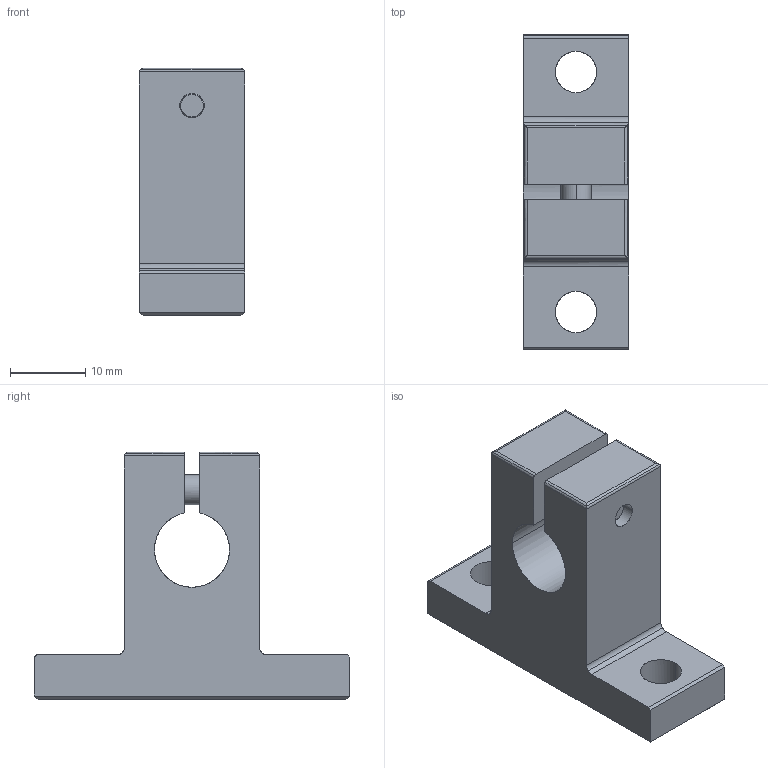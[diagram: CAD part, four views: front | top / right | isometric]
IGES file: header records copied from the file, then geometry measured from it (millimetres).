
Global section: file name: No Iges File Name specified; native system: AutoDesk Inventor R10; preprocessor: AutoDesk Inventor Iges Exporter R10; author: No Author specified; organization: No Organization specified; date: 20101214.152846; units: millimetre
Bounding box: 14 x 42 x 33 mm (x, y, z)
Surface area: 4378.8 mm2 (no closed solid volume)
Topology: 0 solids, 0 shells, 69 faces, 410 edges, 408 vertices
Faces by surface type: bspline 69
